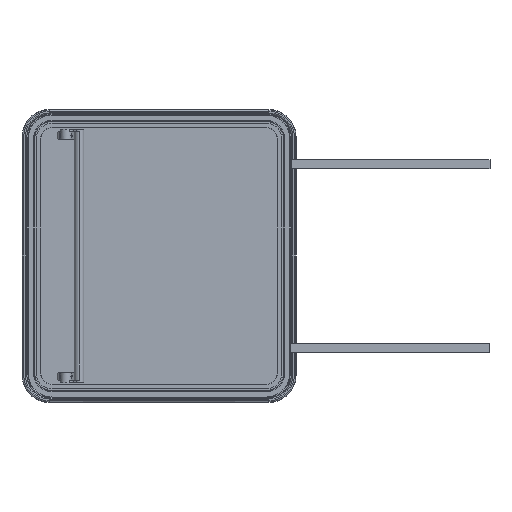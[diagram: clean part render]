
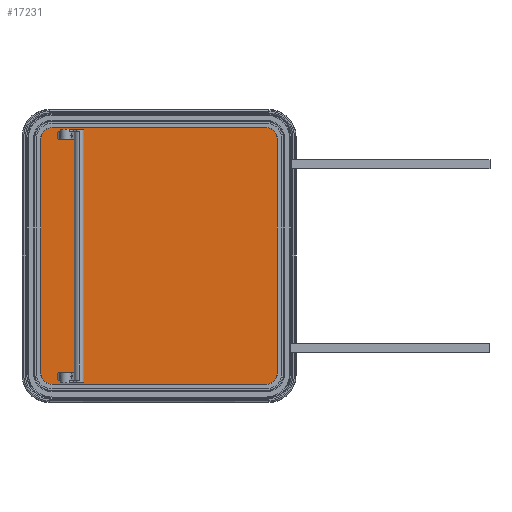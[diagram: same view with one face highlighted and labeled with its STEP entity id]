
A CAD part, front view. The second image highlights one B-rep face of the part: STEP entity #17231.
In plain terms, the highlighted planar face has unit normal (0, -1, 0).
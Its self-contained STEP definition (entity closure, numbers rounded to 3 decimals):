
#14776=DIRECTION('',(0.,0.,1.));
#14777=VECTOR('',#14776,584.);
#14778=CARTESIAN_POINT('',(-371.,0.,-292.));
#14779=LINE('',#14778,#14777);
#14780=CARTESIAN_POINT('',(-317.,0.,292.));
#14781=DIRECTION('',(0.,1.,0.));
#14782=DIRECTION('',(-1.,0.,0.));
#14783=AXIS2_PLACEMENT_3D('',#14780,#14781,#14782);
#14785=DIRECTION('',(1.,0.,0.));
#14786=VECTOR('',#14785,634.);
#14787=CARTESIAN_POINT('',(-317.,0.,346.));
#14788=LINE('',#14787,#14786);
#14789=CARTESIAN_POINT('',(317.,0.,292.));
#14790=DIRECTION('',(0.,1.,0.));
#14791=DIRECTION('',(0.,0.,1.));
#14792=AXIS2_PLACEMENT_3D('',#14789,#14790,#14791);
#14794=DIRECTION('',(0.,0.,-1.));
#14795=VECTOR('',#14794,584.);
#14796=CARTESIAN_POINT('',(371.,0.,292.));
#14797=LINE('',#14796,#14795);
#14798=CARTESIAN_POINT('',(317.,0.,-292.));
#14799=DIRECTION('',(0.,1.,0.));
#14800=DIRECTION('',(1.,0.,0.));
#14801=AXIS2_PLACEMENT_3D('',#14798,#14799,#14800);
#14803=DIRECTION('',(-1.,0.,0.));
#14804=VECTOR('',#14803,634.);
#14805=CARTESIAN_POINT('',(317.,0.,-346.));
#14806=LINE('',#14805,#14804);
#14807=CARTESIAN_POINT('',(-317.,0.,-292.));
#14808=DIRECTION('',(0.,1.,0.));
#14809=DIRECTION('',(0.,0.,-1.));
#14810=AXIS2_PLACEMENT_3D('',#14807,#14808,#14809);
#14812=CARTESIAN_POINT('',(-320.,0.,234.));
#14813=DIRECTION('',(0.,1.,0.));
#14814=DIRECTION('',(1.,0.,0.));
#14815=AXIS2_PLACEMENT_3D('',#14812,#14813,#14814);
#14817=DIRECTION('',(0.,0.,-1.));
#14818=VECTOR('',#14817,29.);
#14819=CARTESIAN_POINT('',(-314.5,0.,263.));
#14820=LINE('',#14819,#14818);
#14821=CARTESIAN_POINT('',(-320.,0.,263.));
#14822=DIRECTION('',(0.,1.,0.));
#14823=DIRECTION('',(-1.,0.,0.));
#14824=AXIS2_PLACEMENT_3D('',#14821,#14822,#14823);
#14826=DIRECTION('',(0.,0.,1.));
#14827=VECTOR('',#14826,29.);
#14828=CARTESIAN_POINT('',(-325.5,0.,234.));
#14829=LINE('',#14828,#14827);
#14830=CARTESIAN_POINT('',(320.,0.,234.));
#14831=DIRECTION('',(0.,-1.,0.));
#14832=DIRECTION('',(-1.,0.,0.));
#14833=AXIS2_PLACEMENT_3D('',#14830,#14831,#14832);
#14835=DIRECTION('',(0.,0.,1.));
#14836=VECTOR('',#14835,29.);
#14837=CARTESIAN_POINT('',(325.5,0.,234.));
#14838=LINE('',#14837,#14836);
#14839=CARTESIAN_POINT('',(320.,0.,263.));
#14840=DIRECTION('',(0.,-1.,0.));
#14841=DIRECTION('',(1.,0.,0.));
#14842=AXIS2_PLACEMENT_3D('',#14839,#14840,#14841);
#14844=DIRECTION('',(0.,0.,-1.));
#14845=VECTOR('',#14844,29.);
#14846=CARTESIAN_POINT('',(314.5,0.,263.));
#14847=LINE('',#14846,#14845);
#16604=CARTESIAN_POINT('',(-371.,0.,-292.));
#16605=CARTESIAN_POINT('',(-371.,0.,292.));
#16606=VERTEX_POINT('',#16604);
#16607=VERTEX_POINT('',#16605);
#16608=CARTESIAN_POINT('',(-317.,0.,346.));
#16609=VERTEX_POINT('',#16608);
#16610=CARTESIAN_POINT('',(317.,0.,346.));
#16611=VERTEX_POINT('',#16610);
#16612=CARTESIAN_POINT('',(371.,0.,292.));
#16613=VERTEX_POINT('',#16612);
#16614=CARTESIAN_POINT('',(371.,0.,-292.));
#16615=VERTEX_POINT('',#16614);
#16616=CARTESIAN_POINT('',(317.,0.,-346.));
#16617=VERTEX_POINT('',#16616);
#16618=CARTESIAN_POINT('',(-317.,0.,-346.));
#16619=VERTEX_POINT('',#16618);
#16668=CARTESIAN_POINT('',(-314.5,0.,234.));
#16669=CARTESIAN_POINT('',(-325.5,0.,234.));
#16670=VERTEX_POINT('',#16668);
#16671=VERTEX_POINT('',#16669);
#16672=CARTESIAN_POINT('',(-325.5,0.,263.));
#16673=VERTEX_POINT('',#16672);
#16674=CARTESIAN_POINT('',(-314.5,0.,263.));
#16675=VERTEX_POINT('',#16674);
#16684=CARTESIAN_POINT('',(314.5,0.,234.));
#16685=CARTESIAN_POINT('',(325.5,0.,234.));
#16686=VERTEX_POINT('',#16684);
#16687=VERTEX_POINT('',#16685);
#16688=CARTESIAN_POINT('',(325.5,0.,263.));
#16689=VERTEX_POINT('',#16688);
#16690=CARTESIAN_POINT('',(314.5,0.,263.));
#16691=VERTEX_POINT('',#16690);
#17188=CARTESIAN_POINT('',(0.,0.,0.));
#17189=DIRECTION('',(0.,1.,0.));
#17190=DIRECTION('',(1.,0.,0.));
#17191=AXIS2_PLACEMENT_3D('',#17188,#17189,#17190);
#17192=PLANE('',#17191);
#17194=ORIENTED_EDGE('',*,*,#17193,.T.);
#17196=ORIENTED_EDGE('',*,*,#17195,.T.);
#17198=ORIENTED_EDGE('',*,*,#17197,.T.);
#17200=ORIENTED_EDGE('',*,*,#17199,.T.);
#17202=ORIENTED_EDGE('',*,*,#17201,.T.);
#17204=ORIENTED_EDGE('',*,*,#17203,.T.);
#17206=ORIENTED_EDGE('',*,*,#17205,.T.);
#17208=ORIENTED_EDGE('',*,*,#17207,.T.);
#17209=EDGE_LOOP('',(#17194,#17196,#17198,#17200,#17202,#17204,#17206,#17208));
#17210=FACE_OUTER_BOUND('',#17209,.F.);
#17212=ORIENTED_EDGE('',*,*,#17211,.F.);
#17214=ORIENTED_EDGE('',*,*,#17213,.F.);
#17216=ORIENTED_EDGE('',*,*,#17215,.F.);
#17218=ORIENTED_EDGE('',*,*,#17217,.F.);
#17219=EDGE_LOOP('',(#17212,#17214,#17216,#17218));
#17220=FACE_BOUND('',#17219,.F.);
#17222=ORIENTED_EDGE('',*,*,#17221,.T.);
#17224=ORIENTED_EDGE('',*,*,#17223,.T.);
#17226=ORIENTED_EDGE('',*,*,#17225,.T.);
#17228=ORIENTED_EDGE('',*,*,#17227,.T.);
#17229=EDGE_LOOP('',(#17222,#17224,#17226,#17228));
#17230=FACE_BOUND('',#17229,.F.);
#17231=ADVANCED_FACE('',(#17210,#17220,#17230),#17192,.F.);
#14784=CIRCLE('',#14783,54.);
#14793=CIRCLE('',#14792,54.);
#14802=CIRCLE('',#14801,54.);
#14811=CIRCLE('',#14810,54.);
#14816=CIRCLE('',#14815,5.5);
#14825=CIRCLE('',#14824,5.5);
#14834=CIRCLE('',#14833,5.5);
#14843=CIRCLE('',#14842,5.5);
#17193=EDGE_CURVE('',#16606,#16607,#14779,.T.);
#17195=EDGE_CURVE('',#16607,#16609,#14784,.T.);
#17197=EDGE_CURVE('',#16609,#16611,#14788,.T.);
#17199=EDGE_CURVE('',#16611,#16613,#14793,.T.);
#17201=EDGE_CURVE('',#16613,#16615,#14797,.T.);
#17203=EDGE_CURVE('',#16615,#16617,#14802,.T.);
#17205=EDGE_CURVE('',#16617,#16619,#14806,.T.);
#17207=EDGE_CURVE('',#16619,#16606,#14811,.T.);
#17211=EDGE_CURVE('',#16670,#16671,#14816,.T.);
#17213=EDGE_CURVE('',#16675,#16670,#14820,.T.);
#17215=EDGE_CURVE('',#16673,#16675,#14825,.T.);
#17217=EDGE_CURVE('',#16671,#16673,#14829,.T.);
#17221=EDGE_CURVE('',#16686,#16687,#14834,.T.);
#17223=EDGE_CURVE('',#16687,#16689,#14838,.T.);
#17225=EDGE_CURVE('',#16689,#16691,#14843,.T.);
#17227=EDGE_CURVE('',#16691,#16686,#14847,.T.);
